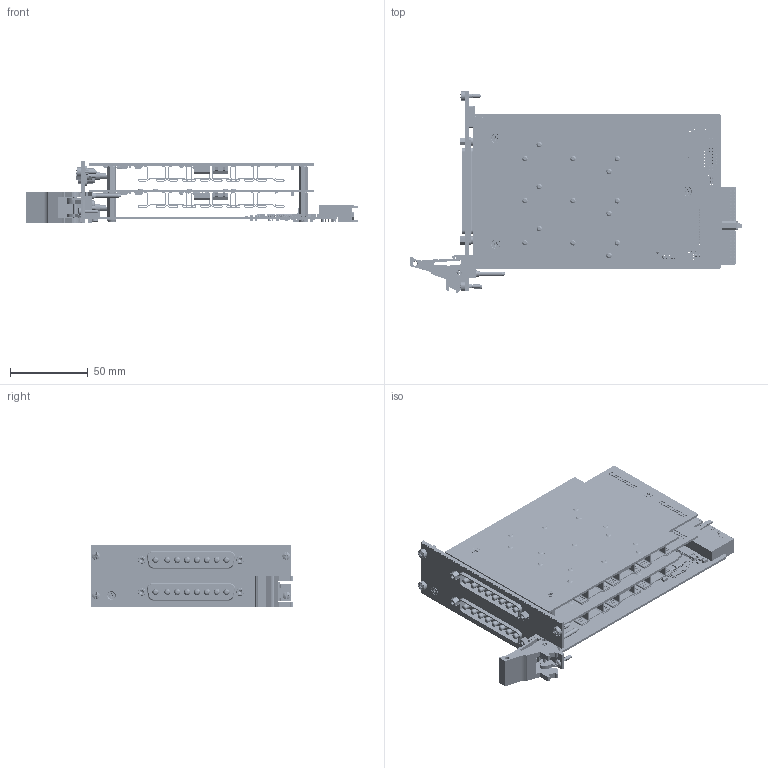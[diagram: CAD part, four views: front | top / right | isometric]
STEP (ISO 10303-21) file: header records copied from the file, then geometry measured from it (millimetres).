
FILE_DESCRIPTION (( 'STEP AP214' ), '1' );
FILE_NAME ('40-183B-011 6-Channel 30A Solid State SPST.step', '2025-03-24T08:20:44', ( '' ), ( '' ), 'SwSTEP 2.0', 'SolidWorks 2023', '' );
FILE_SCHEMA (( 'AUTOMOTIVE_DESIGN' ));
Length unit declared in the file: millimetre
Products named in the file (91): 40-183B-011 6-Channel 30A Solid State SPST; C-RS-659 RES NW 4K7 4RES 8PINS SMT1206; C-IC-458 LDO VOLTAGE REGULATOR 1.2V SOT; P-FX-017 M2,5 Collar Posi-Slot Screw; C-CP-124 CAP 10nF CERAMIC SMT 0402; C-RS-760 RES 1K5 0603 200PPM; C-CN-073 Screwlock 8mm Screw Lenght_2mm Space; C-IC-369 FPGA 17000 Cells 65nm Technology 1.2V 256-Pin FTBGA; C-CN-739 Header 2 X 12 WAY MALE PCB SMT; C-FX-619 M3x16 M-F Standoff; C-CP-141 CAP 10UF 1206 35V X5R 10%; C-MS-324 HEAT SINK FOR D-PAK 29.3C; C-SC-168 SOT363 Complementary MOSFET 20V-8V; C-RS-254 Res  0603; C-IC-124 16-Bit Constant Current Sink Driver; C-CP-175 CAP 22uF 1206 25V X5R 10%; A-FP-583-L1 FP Full Assy; C-IC-598 64Mbit Flash Memory 8-Pin SOIC; C-IC-185 Bus Transceivers Octal 3-STATE Trans IC; C-CN-073-SCREW 4-40 UNC Screwlock_5mm Hexagonal spacer; C-RS-152 Res 10K 0603 1-16W 1% 300PPM; Z-FX-2001 FP Fixing - Bush + Screw; C-RS-148 Res 1K 0603 1-16W 1% 100PPM; C-RS-614 Resistor 63K4 (0603) SMT; C-FP-583 3U 2 Slot 40-913 FP; C-CP-239  Power Line Filter; P-FX-023 Screw, M3 x 6 CSK HD, Pozi, A2 St Steel_M 3x06-965_A2; C-RS-636 RES 10K (0603) 1-16W 1% 100ppm; A-PC-878-C-# 30A SOLID STATE 6 X SPST; C-SC-186 MOSFET N D2-PAK; C-IC-546 24 BIT BUS SWITCH 56PIN TVSOP; C-RS-1207 RES 11K 0603 0.063W 0.1% 25PPM; L-FX-165 PXI Handle Label; C-RS-147 Res 100R 0603 1-16W 1% 100PPM; C-CN-073-NUT M2-5 Screwlock nut_C-FX-028 M2,5 Nut; C-IC-425 SOICN 8PIN SD; C-CN-473 8 Way D Plug; C-BP-018 PXI 3U x 2 Slot Blank Panel; L-FP-583 PXI 2 SLT FP Label Assy; C-PC-1253 VERSATILE MOTHER BOARD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
Assembly tree (328 placements, depth 6):
  40-183B-011 6-Channel 30A Solid State SPST
    A-PC-1253-V01 VERSATILE MOTHER BOARD FULLY POPULATED
      A-PC-1253-V01-# VERSATILE MOTHER BOARD FULLY POPULATED
        C-PC-1253 VERSATILE MOTHER BOARD
        C-RS-190 Res 0R0 SIZE 0603 SMT  x2
        C-IC-489 F-RAM Semiconductor Serial-I2C FRAM Memory 512kbit 2-3.6 V 8-Pin SOIC
        C-CP-034  x38
        C-IC-158 Buffer 3-State SOT-23 5-Pin
        C-IC-548 1-Bit Flip-Flop 8-Pin SM8
        C-IC-310 SOT353 SD
        C-RS-152 Res 10K 0603 1-16W 1% 300PPM  x4
        C-RS-1487 RES 100k 0.1W 25PPM 0603
        C-CP-033 Capacitor 10nF SMT 0603
        C-IC-603 Analogue IC
        C-IC-577 8 Pins DUAL VOLTAGE SUPERVISOR 3.3V 2
        C-RS-636 RES 10K (0603) 1-16W 1% 100ppm  x2
        C-RS-614 Resistor 63K4 (0603) SMT
        C-SC-055 Zener Diode
        C-SC-157 DIODE SCHOTTKY SIGNAL  x3
        C-CP-124 CAP 10nF CERAMIC SMT 0402  x30
        C-CP-099 CAP 0.1uF 16V 0402 SMT  x12
        C-RS-756 RES 0R 0603  200PPM  x16
        C-SC-168 SOT363 Complementary MOSFET 20V-8V  x16
        C-RS-605 Res 22K (0603) SMT  x8
        C-RS-1207 RES 11K 0603 0.063W 0.1% 25PPM  x8
        C-SC-146 Dual Transistor SOT-14  x2
        C-MS-803 BEAD 120R 0603 2A 0R05 25%  x2
        C-CN-1071
          C-CN-107-BODY
          C-CN-107-PIN  x8
        C-CP-141 CAP 10UF 1206 35V X5R 10%  x7
        C-CP-239  Power Line Filter  x2
        C-CP-139 CAP 4.7UF 1206 16V X7R 10%  x2
        C-IC-185 Bus Transceivers Octal 3-STATE Trans IC  x4
        C-CN-739 Header 2 X 12 WAY MALE PCB SMT  x2
        C-IC-425 SOICN 8PIN SD
        C-CP-175 CAP 22uF 1206 25V X5R 10%  x2
        C-IC-369 FPGA 17000 Cells 65nm Technology 1.2V 256-Pin FTBGA
        C-RS-521 Res 120R (0603) 1-16W 1% 100pp
        C-RS-148 Res 1K 0603 1-16W 1% 100PPM  x2
        C-RS-659 RES NW 4K7 4RES 8PINS SMT1206  x4
        C-IC-546 24 BIT BUS SWITCH 56PIN TVSOP  x2
        C-CN-355 Compact pci connector 3_Render
        C-CP-134 CAP 1uF CERAMIC SMT 0805  x2
        C-RS-147 Res 100R 0603 1-16W 1% 100PPM
        C-IC-385 SOICN 8PIN SD_No Text
        C-IC-458 LDO VOLTAGE REGULATOR 1.2V SOT
        C-IC-598 64Mbit Flash Memory 8-Pin SOIC
    A-FP-583-L2 FP Full Assy
      A-FP-583-L1 FP Full Assy
        A-FP-583 PXI 2 Slot FP + Label Assy
          C-FP-583 3U 2 Slot 40-913 FP
            C-BP-018 PXI 3U x 2 Slot Blank Panel
          L-FP-583 PXI 2 SLT FP Label Assy
            L-FP-583-# PXI 2 Slot FP Label
        C-FX-165 CPCI Ejector Handle
          C-FX-165 Handle Body
          C-FX-165 Handle Finger
          C-FX-165 Handle Pin
          P-FX-017 M2,5 Collar Posi-Slot Screw
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Bounding box: 213.7 x 129.68 x 40 mm (x, y, z)
Volume: 124161.9 mm3; surface area: 194172.6 mm2
Topology: 480 solids, 513 shells, 28614 faces, 74013 edges, 47486 vertices
Faces by surface type: plane 18988, cylinder 8012, torus 732, cone 681, bspline 161, sphere 40
Entity records: 441988 total; most frequent: CARTESIAN_POINT 62339, DIRECTION 58897, ORIENTED_EDGE 55692, EDGE_CURVE 27850, AXIS2_PLACEMENT_3D 19955, VECTOR 18987, LINE 18987, VERTEX_POINT 17619
